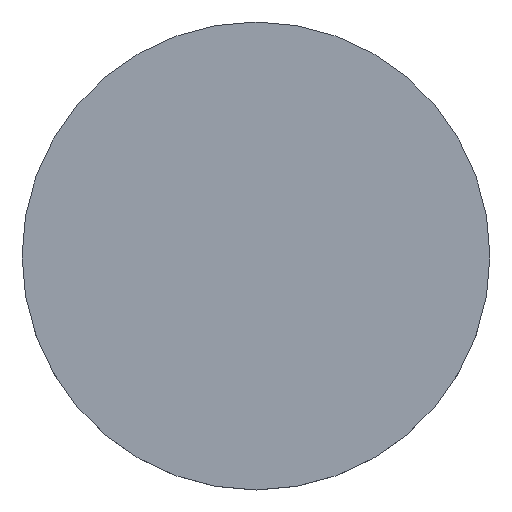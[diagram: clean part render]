
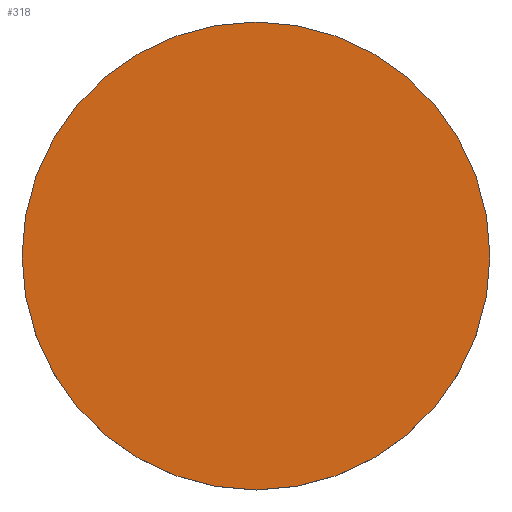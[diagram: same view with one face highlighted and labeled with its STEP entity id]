
A CAD part, top view. The second image highlights one B-rep face of the part: STEP entity #318.
In plain terms, the highlighted planar face has unit normal (0, 0, 1).
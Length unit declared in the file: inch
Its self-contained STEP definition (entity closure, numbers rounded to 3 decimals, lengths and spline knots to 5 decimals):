
#103=FACE_OUTER_BOUND('',#145,.T.);
#145=EDGE_LOOP('',(#281));
#170=CIRCLE('',#440,90.);
#196=VERTEX_POINT('',#689);
#224=EDGE_CURVE('',#196,#196,#170,.T.);
#281=ORIENTED_EDGE('',*,*,#224,.T.);
#292=PLANE('',#443);
#318=ADVANCED_FACE('',(#103),#292,.T.);
#440=AXIS2_PLACEMENT_3D('',#690,#544,#545);
#443=AXIS2_PLACEMENT_3D('',#694,#550,#551);
#544=DIRECTION('center_axis',(0.,0.,1.));
#545=DIRECTION('ref_axis',(-1.,0.,0.));
#550=DIRECTION('center_axis',(0.,0.,1.));
#551=DIRECTION('ref_axis',(1.,0.,0.));
#689=CARTESIAN_POINT('',(90.,0.,20.));
#690=CARTESIAN_POINT('Origin',(0.,0.,20.));
#694=CARTESIAN_POINT('Origin',(0.,0.,20.));
